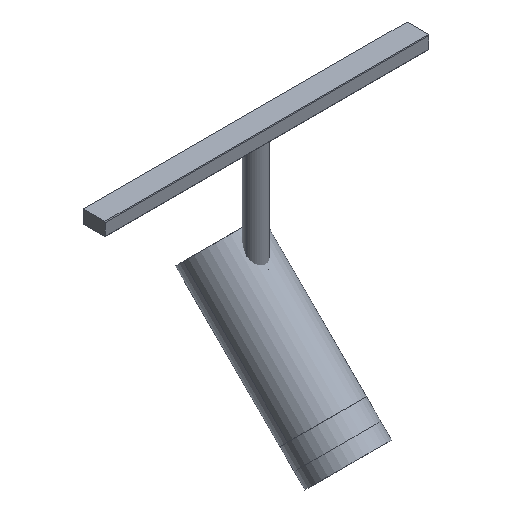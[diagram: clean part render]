
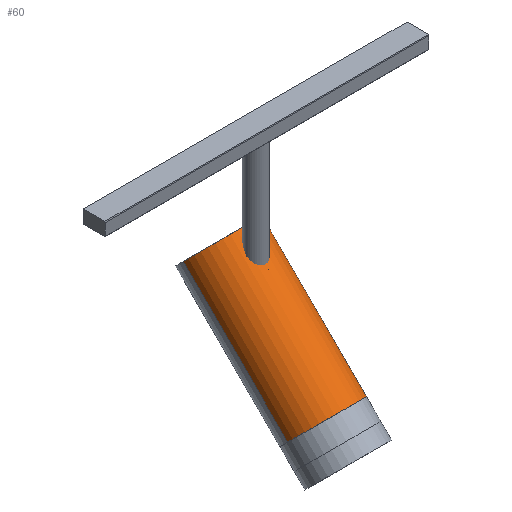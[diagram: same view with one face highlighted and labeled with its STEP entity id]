
A CAD part, isometric view. The second image highlights one B-rep face of the part: STEP entity #60.
In plain terms, the highlighted cylindrical face has radius 17.55 mm (diameter 35.1 mm), a partial arc.
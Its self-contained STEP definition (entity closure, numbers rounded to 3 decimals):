
#60=ADVANCED_FACE('',(#110),#784,.T.);
#110=FACE_OUTER_BOUND('',#166,.T.);
#166=EDGE_LOOP('',(#299,#300,#301,#302));
#299=ORIENTED_EDGE('',*,*,#463,.F.);
#300=ORIENTED_EDGE('',*,*,#462,.F.);
#301=ORIENTED_EDGE('',*,*,#461,.F.);
#302=ORIENTED_EDGE('',*,*,#460,.F.);
#460=EDGE_CURVE('',#708,#709,#552,.T.);
#461=EDGE_CURVE('',#709,#710,#635,.T.);
#462=EDGE_CURVE('',#710,#711,#553,.T.);
#463=EDGE_CURVE('',#711,#708,#636,.T.);
#552=TRIMMED_CURVE($,#606,(#1615),(#1616),.T.,.CARTESIAN.);
#553=TRIMMED_CURVE($,#607,(#1620),(#1621),.T.,.CARTESIAN.);
#606=CIRCLE('',#949,17.55);
#607=CIRCLE('',#950,17.55);
#635=B_SPLINE_CURVE_WITH_KNOTS('',1,(#1617,#1618),.UNSPECIFIED.,.F.,.F.,
(2,2),(0.,73.),.UNSPECIFIED.);
#636=B_SPLINE_CURVE_WITH_KNOTS('',1,(#1622,#1623),.UNSPECIFIED.,.F.,.F.,
(2,2),(-73.,0.),.UNSPECIFIED.);
#708=VERTEX_POINT('',#1607);
#709=VERTEX_POINT('',#1608);
#710=VERTEX_POINT('',#1609);
#711=VERTEX_POINT('',#1610);
#784=CYLINDRICAL_SURFACE('',#945,17.55);
#945=AXIS2_PLACEMENT_3D('',#1604,#1083,$);
#949=AXIS2_PLACEMENT_3D($,#1614,#1088,#1089);
#950=AXIS2_PLACEMENT_3D($,#1619,#1090,#1091);
#1083=DIRECTION('',(0.,-0.707,-0.707));
#1088=DIRECTION('',(0.,-0.707,-0.707));
#1089=DIRECTION('',(1.,0.,0.));
#1090=DIRECTION('',(0.,0.707,0.707));
#1091=DIRECTION('',(-1.,0.,0.));
#1604=CARTESIAN_POINT('',(0.,-7.425,-86.1));
#1607=CARTESIAN_POINT('',(17.55,-33.234,-111.909));
#1608=CARTESIAN_POINT('',(-17.55,-33.234,-111.909));
#1609=CARTESIAN_POINT('',(-17.55,18.385,-60.29));
#1610=CARTESIAN_POINT('',(17.55,18.385,-60.29));
#1614=CARTESIAN_POINT('',(0.,-33.234,-111.909));
#1615=CARTESIAN_POINT('',(17.55,-33.234,-111.909));
#1616=CARTESIAN_POINT('',(-17.55,-33.234,-111.909));
#1617=CARTESIAN_POINT('',(-17.55,-33.234,-111.909));
#1618=CARTESIAN_POINT('',(-17.55,18.385,-60.29));
#1619=CARTESIAN_POINT('',(0.,18.385,-60.29));
#1620=CARTESIAN_POINT('',(-17.55,18.385,-60.29));
#1621=CARTESIAN_POINT('',(17.55,18.385,-60.29));
#1622=CARTESIAN_POINT('',(17.55,18.385,-60.29));
#1623=CARTESIAN_POINT('',(17.55,-33.234,-111.909));
